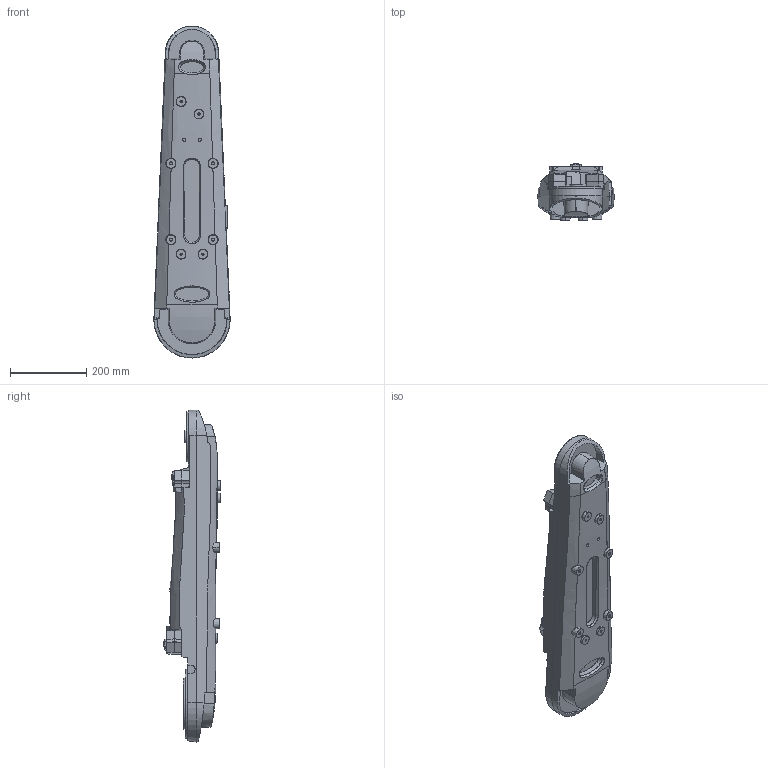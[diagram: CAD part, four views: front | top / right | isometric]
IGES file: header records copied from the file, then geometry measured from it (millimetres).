
Start section: SolidWorks IGES file using analytic representation for surfaces
Global section: file name: C:\Data\Lättmodeller\Nytt\2600\IRB2600\IRB2600_20-165_IRC5_rev00\IRB2600_20-165_IRC5_rev00_IRC5_IGES_j\IRB2600_20-165_LINK2_CAD_rev02.IGS; native system: SolidWorks 2014; preprocessor: SolidWorks 2014; author: seadbov; date: 161202.125225; units: millimetre
Bounding box: 199.82 x 150 x 870 mm (x, y, z)
Surface area: 511322.5 mm2 (no closed solid volume)
Topology: 0 solids, 0 shells, 460 faces, 6425 edges, 6419 vertices
Faces by surface type: bspline 285, revolution 175
